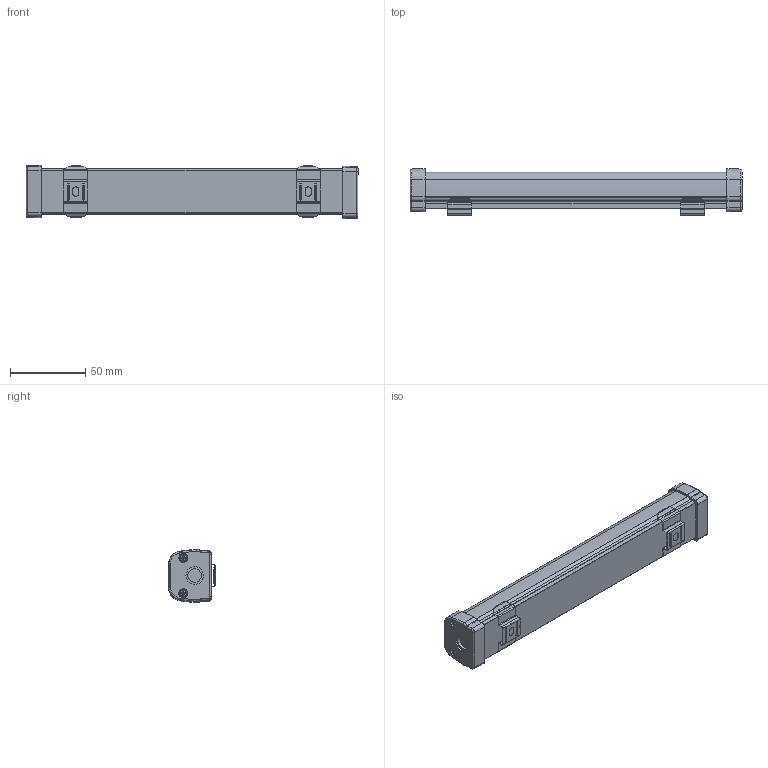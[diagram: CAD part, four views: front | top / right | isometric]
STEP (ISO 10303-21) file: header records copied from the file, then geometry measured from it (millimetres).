
FILE_DESCRIPTION (( 'STEP AP203' ), '1' );
FILE_NAME ('QKR572_3D00132 QEL200 3D紫賊_220804.STEP', '2022-08-04T05:35:28', ( 'QKR_NOTE119' ), ( '' ), 'SwSTEP 2.0', 'SolidWorks 2019', '' );
FILE_SCHEMA (( 'CONFIG_CONTROL_DESIGN' ));
Length unit declared in the file: millimetre
Products named in the file (1): QKR572_3D00132 QEL200 3D紫賊_220804
Bounding box: 220 x 30.75 x 35.21 mm (x, y, z)
Volume: 152725.7 mm3; surface area: 27587.5 mm2
Topology: 1 solids, 5 shells, 463 faces, 1233 edges, 784 vertices
Faces by surface type: plane 176, cylinder 129, cone 64, torus 64, bspline 22, sphere 8
Entity records: 15476 total; most frequent: CARTESIAN_POINT 4047, ORIENTED_EDGE 2450, DIRECTION 2383, EDGE_CURVE 1225, AXIS2_PLACEMENT_3D 970, VERTEX_POINT 784, CIRCLE 528, EDGE_LOOP 499
